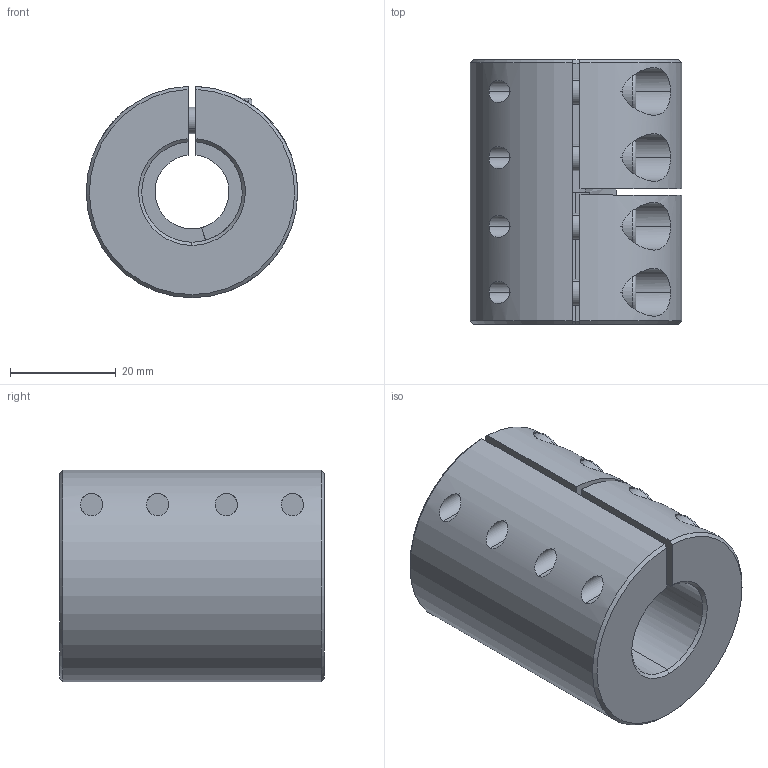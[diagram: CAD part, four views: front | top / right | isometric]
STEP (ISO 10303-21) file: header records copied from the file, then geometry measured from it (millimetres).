
FILE_DESCRIPTION (( 'STEP AP214' ), '1' );
FILE_NAME ('LL-B-D40L50-14-19½¨Ä£.STEP', '2022-07-22T00:25:09', ( '' ), ( '' ), 'SwSTEP 2.0', 'SolidWorks 2022', '' );
FILE_SCHEMA (( 'AUTOMOTIVE_DESIGN' ));
Length unit declared in the file: millimetre
Products named in the file (1): LL-B-D40L50-14-19膘耀
Bounding box: 40 x 50 x 39.99 mm (x, y, z)
Volume: 48986.9 mm3; surface area: 15376.5 mm2
Topology: 1 solids, 1 shells, 176 faces, 444 edges, 278 vertices
Faces by surface type: plane 84, cylinder 70, cone 14, torus 8
Entity records: 5801 total; most frequent: CARTESIAN_POINT 1475, DIRECTION 941, ORIENTED_EDGE 872, EDGE_CURVE 436, AXIS2_PLACEMENT_3D 368, VERTEX_POINT 278, EDGE_LOOP 208, VECTOR 205
